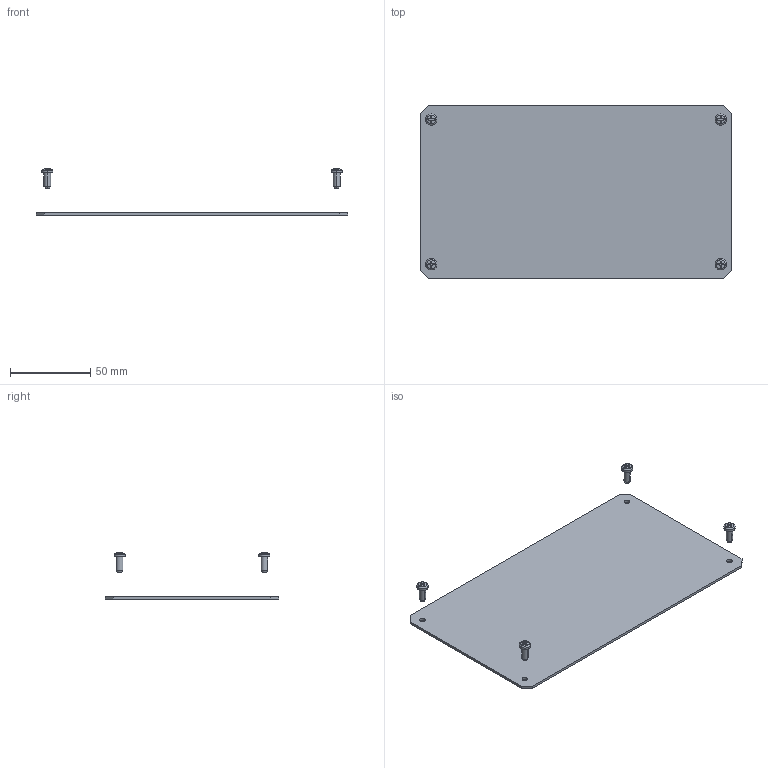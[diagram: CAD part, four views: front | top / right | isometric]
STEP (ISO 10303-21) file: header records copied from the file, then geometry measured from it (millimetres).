
FILE_DESCRIPTION(('Creo Elements/Direct Modeling STEP Export'),'2;1');
FILE_NAME('H08-0034-CL401_MB-WLQ220A.stp','2012-02-15T14:38:55',(''),(''),'Creo Elements/Direct Modeling STEP processor for AP214 (Solid Model)','Creo Elements/Direct Modeling 18.0B 02-Dec-2011 (C) Parametric Technology GmbH','');
FILE_SCHEMA(('AUTOMOTIVE_DESIGN { 1 0 10303 214 1 1 1 1 }'));
Length unit declared in the file: millimetre
Products named in the file (6): MB-WLQ220A; タッピングねじ.4; タッピングねじ.1; タッピングねじ.2; タッピングねじ.3
Assembly tree (4 placements, depth 2):
  MB-WLQ220A
  タッピングねじ.1
    タッピングねじ.4
  タッピングねじ.2
    タッピングねじ.4
  タッピングねじ.3
    タッピングねじ.4
  タッピングねじ.4
    タッピングねじ.4
Bounding box: 194 x 108 x 28.89 mm (x, y, z)
Volume: 34216.2 mm3; surface area: 43770.5 mm2
Topology: 5 solids, 5 shells, 134 faces, 360 edges, 240 vertices
Faces by surface type: plane 70, cylinder 40, cone 8, torus 8, sphere 8
Entity records: 1702 total; most frequent: CARTESIAN_POINT 408, ORIENTED_EDGE 252, DIRECTION 238, EDGE_CURVE 126, AXIS2_PLACEMENT_3D 86, VERTEX_POINT 84, VECTOR 66, LINE 66
